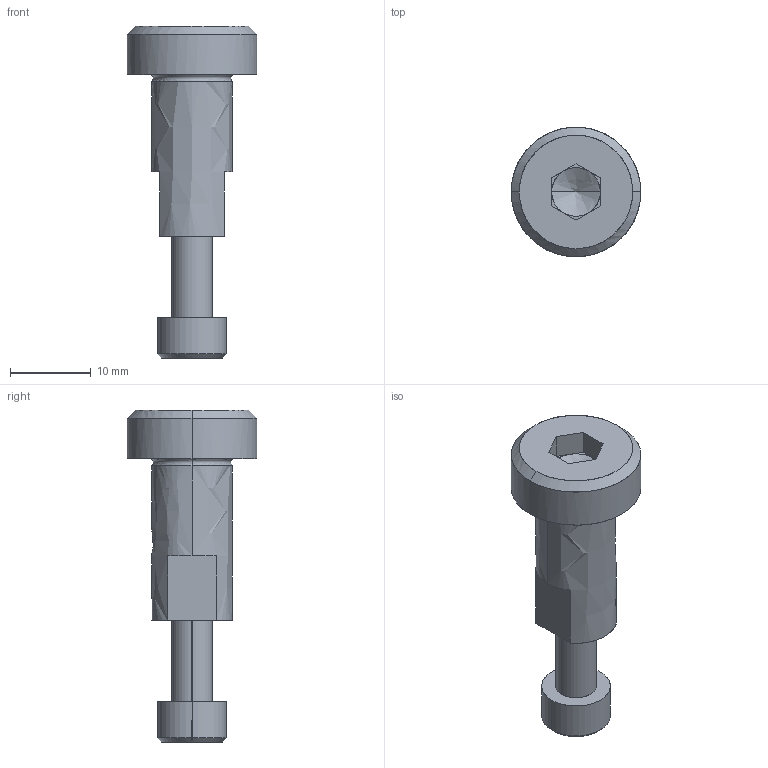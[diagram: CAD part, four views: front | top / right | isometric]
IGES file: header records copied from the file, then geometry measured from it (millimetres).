
Global section: file name: E:\UnigraphicsGraphicData\MISUMI_PRESS-PARTS\IGES\3d_sbt10-20_05086_r00.igs; native system: NX V5.0; preprocessor: UGS NX IGES V5.0; author: MISUMI; date: 20110105.162431; units: millimetre
Bounding box: 16 x 16 x 41 mm (x, y, z)
Surface area: 2288.8 mm2 (no closed solid volume)
Topology: 0 solids, 0 shells, 56 faces, 300 edges, 296 vertices
Faces by surface type: bspline 56
